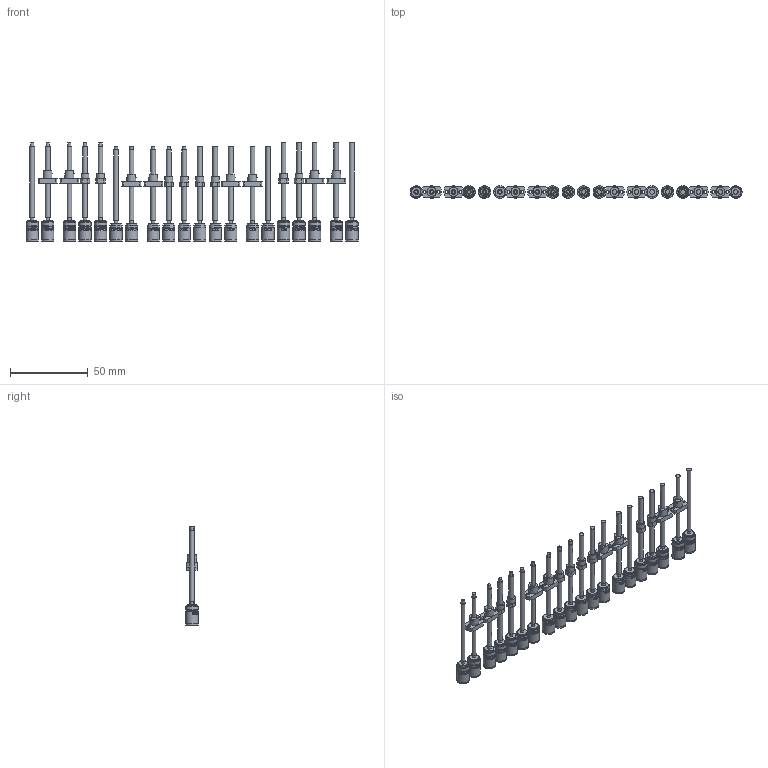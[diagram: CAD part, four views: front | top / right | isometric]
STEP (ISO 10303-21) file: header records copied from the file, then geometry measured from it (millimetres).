
FILE_DESCRIPTION(/* description */ (''),/* implementation_level */ '2;1');
FILE_NAME(/* name */ '08L-1stage_SL_standard_KWNx_KWS1_KF2.stp',/* time_stamp */ '2024-02-23T13:59:12+01:00',/* author */ ('DR. FRITZ FAULHABER GmbH & Co. KG'),/* organization */ ('DR. FRITZ FAULHABER GmbH & Co. KG'),/* preprocessor_version */ 'ST-DEVELOPER v19.3',/* originating_system */ 'SIEMENS PLM Software NX2212.4000',/* authorisation */ '');
FILE_SCHEMA (('AUTOMOTIVE_DESIGN { 1 0 10303 214 3 1 1 1 }'));
Length unit declared in the file: millimetre
Products named in the file (1): C_objects
Bounding box: 214 x 8 x 63.4 mm (x, y, z)
Volume: 20368.8 mm3; surface area: 22225.9 mm2
Topology: 20 solids, 20 shells, 2387 faces, 5846 edges, 3889 vertices
Faces by surface type: plane 1296, bspline 570, cylinder 481, cone 40
Full cylindrical faces by diameter (mm): 1.8 x16, 2 x10, 2.2 x20, 2.55 x20, 2.95 x20, 3 x36, 4.959 x30, 5 x8, 6 x38, 6.5 x10, 7 x10, 7.8 x10, 7.99 x10, 8 x60
Entity records: 108734 total; most frequent: CARTESIAN_POINT 48177, ORIENTED_EDGE 10856, DIRECTION 7542, EDGE_CURVE 5428, VERTEX_POINT 3812, EDGE_LOOP 3150, AXIS2_PLACEMENT_3D 3130, B_SPLINE_CURVE_WITH_KNOTS 2835
